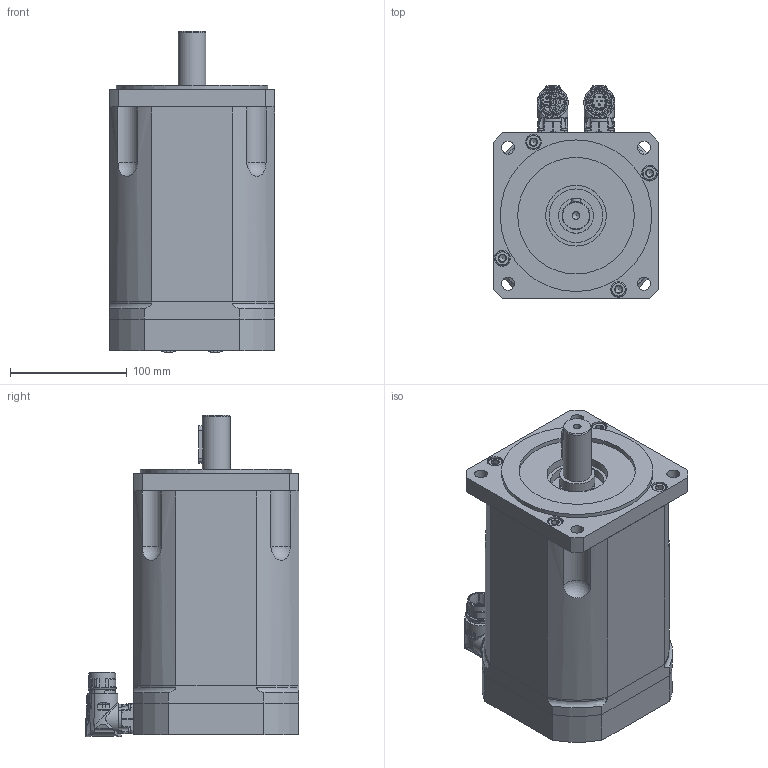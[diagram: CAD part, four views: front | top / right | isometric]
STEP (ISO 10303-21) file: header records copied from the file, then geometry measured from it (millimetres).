
FILE_DESCRIPTION(/* description */ (''),/* implementation_level */ '2;1');
FILE_NAME(/* name */ 'C:\Users\Public\Documents\Autodesk\Inventor LT 2014\Workspace\Motori Sito WEB\TG_5\STEP_DSM5_5x\DSM5_52_x097.stp',/* time_stamp */ '2021-03-31T14:16:32+02:00',/* author */ ('marcor'),/* organization */ (''),/* preprocessor_version */ 'ST-DEVELOPER v15.2',/* originating_system */ 'Autodesk Inventor LT ',/* authorisation */ '');
FILE_SCHEMA (('AUTOMOTIVE_DESIGN { 1 0 10303 214 3 1 1 }'));
Products named in the file (1): DSM5_52_x097
Bounding box: 142 x 183.5 x 275.91 mm (x, y, z)
Volume: 4143455.4 mm3; surface area: 311161 mm2
Topology: 16 solids, 32 shells, 1520 faces, 3947 edges, 2627 vertices
Faces by surface type: plane 530, cylinder 449, cone 319, bspline 113, torus 77, sphere 32
Full cylindrical faces by diameter (mm): 1.2 x12, 2.013 x8, 2.224 x8, 2.233 x6, 2.5 x8, 2.88 x8, 3.26 x8, 4.5 x2, 4.8 x8, 4.917 x4, 5.5 x3, 5.9 x2, 6 x4, 6.5 x4, 6.647 x9, 8 x8, 8.5 x8, 10 x4, 11 x8, 13 x8, 13.5 x8, 15.2 x1, 17.4 x3, 18 x1, 19.8 x1, 20 x2, 21.15 x4, 21.6 x1, 21.653 x2, 24 x1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
Entity records: 53510 total; most frequent: CARTESIAN_POINT 18180, ORIENTED_EDGE 6978, DIRECTION 6567, EDGE_CURVE 3489, AXIS2_PLACEMENT_3D 2668, VERTEX_POINT 2503, EDGE_LOOP 2036, ADVANCED_FACE 1520
